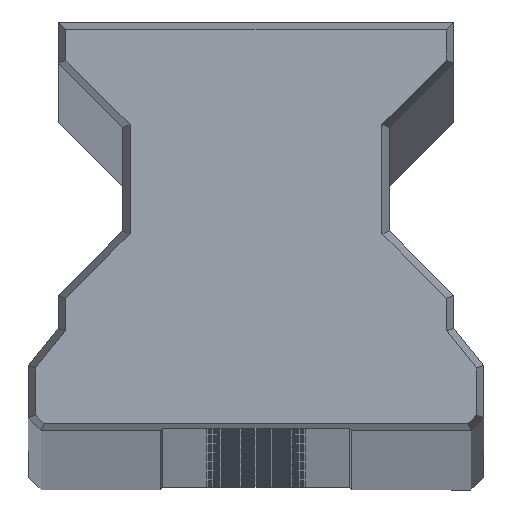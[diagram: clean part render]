
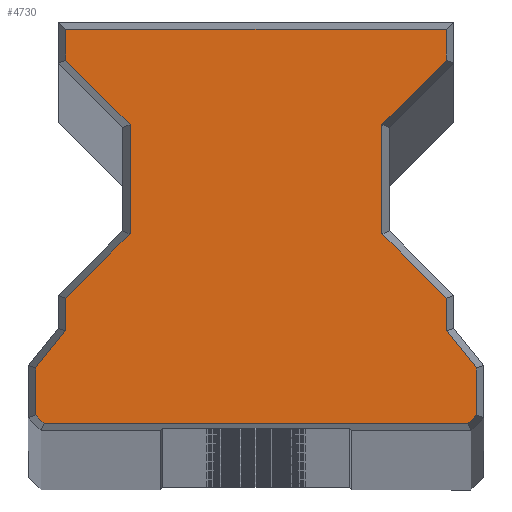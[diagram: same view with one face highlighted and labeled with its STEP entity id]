
A CAD part, top view. The second image highlights one B-rep face of the part: STEP entity #4730.
In plain terms, the highlighted planar face has unit normal (0, 0, 1).
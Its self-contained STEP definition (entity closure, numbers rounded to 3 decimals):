
#734=DIRECTION('',(1.,0.,0.));
#735=VECTOR('',#734,49.296);
#736=CARTESIAN_POINT('',(-24.648,0.85,0.));
#737=LINE('',#736,#735);
#738=DIRECTION('',(0.707,-0.707,0.));
#739=VECTOR('',#738,1.417);
#740=CARTESIAN_POINT('',(-25.65,1.852,0.));
#741=LINE('',#740,#739);
#742=DIRECTION('',(0.,-1.,0.));
#743=VECTOR('',#742,5.446);
#744=CARTESIAN_POINT('',(-25.65,7.298,0.));
#745=LINE('',#744,#743);
#746=DIRECTION('',(0.631,0.776,0.));
#747=VECTOR('',#746,5.548);
#748=CARTESIAN_POINT('',(-25.65,7.298,0.));
#749=LINE('',#748,#747);
#750=DIRECTION('',(0.,-1.,0.));
#751=VECTOR('',#750,3.795);
#752=CARTESIAN_POINT('',(-22.15,15.398,0.));
#753=LINE('',#752,#751);
#754=DIRECTION('',(-0.707,-0.707,0.));
#755=VECTOR('',#754,10.607);
#756=CARTESIAN_POINT('',(-14.65,22.898,0.));
#757=LINE('',#756,#755);
#758=DIRECTION('',(0.,-1.,0.));
#759=VECTOR('',#758,12.704);
#760=CARTESIAN_POINT('',(-14.65,35.602,0.));
#761=LINE('',#760,#759);
#762=DIRECTION('',(0.707,-0.707,0.));
#763=VECTOR('',#762,10.607);
#764=CARTESIAN_POINT('',(-22.15,43.102,0.));
#765=LINE('',#764,#763);
#766=DIRECTION('',(0.,-1.,0.));
#767=VECTOR('',#766,3.598);
#768=CARTESIAN_POINT('',(-22.15,46.7,0.));
#769=LINE('',#768,#767);
#770=DIRECTION('',(-1.,0.,0.));
#771=VECTOR('',#770,44.3);
#772=CARTESIAN_POINT('',(22.15,46.7,0.));
#773=LINE('',#772,#771);
#774=DIRECTION('',(0.,1.,0.));
#775=VECTOR('',#774,3.598);
#776=CARTESIAN_POINT('',(22.15,43.102,0.));
#777=LINE('',#776,#775);
#778=DIRECTION('',(-0.707,-0.707,0.));
#779=VECTOR('',#778,10.607);
#780=CARTESIAN_POINT('',(22.15,43.102,0.));
#781=LINE('',#780,#779);
#782=DIRECTION('',(0.,1.,0.));
#783=VECTOR('',#782,12.704);
#784=CARTESIAN_POINT('',(14.65,22.898,0.));
#785=LINE('',#784,#783);
#786=DIRECTION('',(-0.707,0.707,0.));
#787=VECTOR('',#786,10.607);
#788=CARTESIAN_POINT('',(22.15,15.398,0.));
#789=LINE('',#788,#787);
#790=DIRECTION('',(0.,1.,0.));
#791=VECTOR('',#790,3.795);
#792=CARTESIAN_POINT('',(22.15,11.602,0.));
#793=LINE('',#792,#791);
#794=DIRECTION('',(-0.631,0.776,0.));
#795=VECTOR('',#794,5.548);
#796=CARTESIAN_POINT('',(25.65,7.298,0.));
#797=LINE('',#796,#795);
#798=DIRECTION('',(0.,1.,0.));
#799=VECTOR('',#798,5.446);
#800=CARTESIAN_POINT('',(25.65,1.852,0.));
#801=LINE('',#800,#799);
#802=DIRECTION('',(0.707,0.707,0.));
#803=VECTOR('',#802,1.417);
#804=CARTESIAN_POINT('',(24.648,0.85,0.));
#805=LINE('',#804,#803);
#3358=CARTESIAN_POINT('',(-24.648,0.85,0.));
#3359=CARTESIAN_POINT('',(24.648,0.85,0.));
#3360=VERTEX_POINT('',#3358);
#3361=VERTEX_POINT('',#3359);
#3362=CARTESIAN_POINT('',(25.65,1.852,0.));
#3363=VERTEX_POINT('',#3362);
#3364=CARTESIAN_POINT('',(25.65,7.298,0.));
#3365=VERTEX_POINT('',#3364);
#3366=CARTESIAN_POINT('',(22.15,11.602,0.));
#3367=VERTEX_POINT('',#3366);
#3368=CARTESIAN_POINT('',(22.15,15.398,0.));
#3369=VERTEX_POINT('',#3368);
#3370=CARTESIAN_POINT('',(14.65,22.898,0.));
#3371=VERTEX_POINT('',#3370);
#3372=CARTESIAN_POINT('',(14.65,35.602,0.));
#3373=VERTEX_POINT('',#3372);
#3374=CARTESIAN_POINT('',(22.15,43.102,0.));
#3375=VERTEX_POINT('',#3374);
#3376=CARTESIAN_POINT('',(22.15,46.7,0.));
#3377=VERTEX_POINT('',#3376);
#3378=CARTESIAN_POINT('',(-22.15,46.7,0.));
#3379=VERTEX_POINT('',#3378);
#3380=CARTESIAN_POINT('',(-22.15,43.102,0.));
#3381=VERTEX_POINT('',#3380);
#3382=CARTESIAN_POINT('',(-14.65,35.602,0.));
#3383=VERTEX_POINT('',#3382);
#3384=CARTESIAN_POINT('',(-14.65,22.898,0.));
#3385=VERTEX_POINT('',#3384);
#3386=CARTESIAN_POINT('',(-22.15,15.398,0.));
#3387=VERTEX_POINT('',#3386);
#3388=CARTESIAN_POINT('',(-22.15,11.602,0.));
#3389=VERTEX_POINT('',#3388);
#3390=CARTESIAN_POINT('',(-25.65,7.298,0.));
#3391=VERTEX_POINT('',#3390);
#4082=CARTESIAN_POINT('',(-25.65,1.852,0.));
#4083=VERTEX_POINT('',#4082);
#4688=CARTESIAN_POINT('',(0.,0.,0.));
#4689=DIRECTION('',(0.,0.,1.));
#4690=DIRECTION('',(1.,0.,0.));
#4691=AXIS2_PLACEMENT_3D('',#4688,#4689,#4690);
#4692=PLANE('',#4691);
#4694=ORIENTED_EDGE('',*,*,#4693,.F.);
#4696=ORIENTED_EDGE('',*,*,#4695,.F.);
#4698=ORIENTED_EDGE('',*,*,#4697,.F.);
#4700=ORIENTED_EDGE('',*,*,#4699,.T.);
#4702=ORIENTED_EDGE('',*,*,#4701,.F.);
#4704=ORIENTED_EDGE('',*,*,#4703,.F.);
#4706=ORIENTED_EDGE('',*,*,#4705,.F.);
#4707=ORIENTED_EDGE('',*,*,#4678,.F.);
#4709=ORIENTED_EDGE('',*,*,#4708,.F.);
#4711=ORIENTED_EDGE('',*,*,#4710,.F.);
#4713=ORIENTED_EDGE('',*,*,#4712,.F.);
#4715=ORIENTED_EDGE('',*,*,#4714,.T.);
#4717=ORIENTED_EDGE('',*,*,#4716,.F.);
#4719=ORIENTED_EDGE('',*,*,#4718,.F.);
#4721=ORIENTED_EDGE('',*,*,#4720,.F.);
#4723=ORIENTED_EDGE('',*,*,#4722,.F.);
#4725=ORIENTED_EDGE('',*,*,#4724,.F.);
#4727=ORIENTED_EDGE('',*,*,#4726,.F.);
#4728=EDGE_LOOP('',(#4694,#4696,#4698,#4700,#4702,#4704,#4706,#4707,#4709,#4711,
#4713,#4715,#4717,#4719,#4721,#4723,#4725,#4727));
#4729=FACE_OUTER_BOUND('',#4728,.F.);
#4678=EDGE_CURVE('',#3381,#3383,#765,.T.);
#4693=EDGE_CURVE('',#3360,#3361,#737,.T.);
#4695=EDGE_CURVE('',#4083,#3360,#741,.T.);
#4697=EDGE_CURVE('',#3391,#4083,#745,.T.);
#4699=EDGE_CURVE('',#3391,#3389,#749,.T.);
#4701=EDGE_CURVE('',#3387,#3389,#753,.T.);
#4703=EDGE_CURVE('',#3385,#3387,#757,.T.);
#4705=EDGE_CURVE('',#3383,#3385,#761,.T.);
#4708=EDGE_CURVE('',#3379,#3381,#769,.T.);
#4710=EDGE_CURVE('',#3377,#3379,#773,.T.);
#4712=EDGE_CURVE('',#3375,#3377,#777,.T.);
#4714=EDGE_CURVE('',#3375,#3373,#781,.T.);
#4716=EDGE_CURVE('',#3371,#3373,#785,.T.);
#4718=EDGE_CURVE('',#3369,#3371,#789,.T.);
#4720=EDGE_CURVE('',#3367,#3369,#793,.T.);
#4722=EDGE_CURVE('',#3365,#3367,#797,.T.);
#4724=EDGE_CURVE('',#3363,#3365,#801,.T.);
#4726=EDGE_CURVE('',#3361,#3363,#805,.T.);
#4730=ADVANCED_FACE('',(#4729),#4692,.T.);
